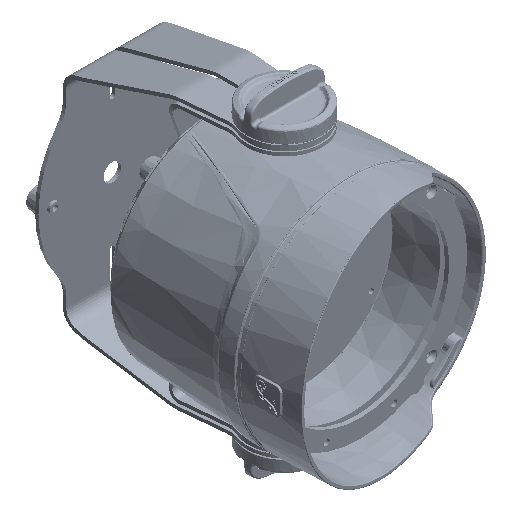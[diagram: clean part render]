
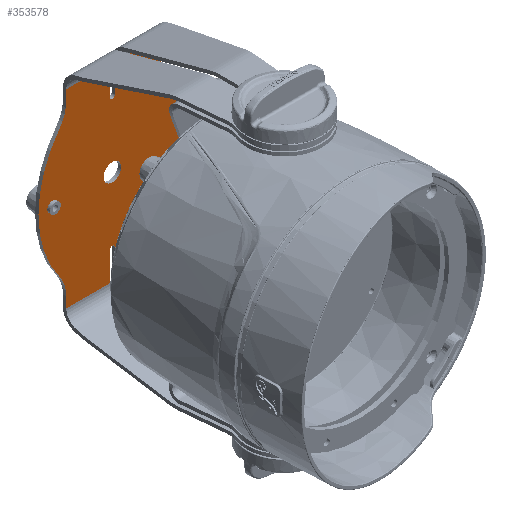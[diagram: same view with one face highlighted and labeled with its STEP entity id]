
A CAD part, isometric view. The second image highlights one B-rep face of the part: STEP entity #353578.
In plain terms, the highlighted planar face has unit normal (0, -1, 0).
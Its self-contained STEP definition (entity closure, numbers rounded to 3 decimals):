
#353086=CARTESIAN_POINT('',(-34.,72.,-70.));
#353087=VERTEX_POINT('',#353086);
#353096=CARTESIAN_POINT('',(-2.,72.,-70.));
#353097=VERTEX_POINT('',#353096);
#353105=CARTESIAN_POINT('',(-34.,72.,-70.));
#353106=DIRECTION('',(1.,0.,-0.));
#353107=VECTOR('',#353106,32.);
#353108=LINE('',#353105,#353107);
#353109=EDGE_CURVE('',#353087,#353097,#353108,.T.);
#353120=CARTESIAN_POINT('',(34.,72.,-70.));
#353121=VERTEX_POINT('',#353120);
#353129=CARTESIAN_POINT('',(2.,72.,-70.));
#353130=VERTEX_POINT('',#353129);
#353131=CARTESIAN_POINT('',(2.,72.,-70.));
#353132=DIRECTION('',(1.,0.,-0.));
#353133=VECTOR('',#353132,32.);
#353134=LINE('',#353131,#353133);
#353135=EDGE_CURVE('',#353130,#353121,#353134,.T.);
#353152=CARTESIAN_POINT('',(34.,72.,70.));
#353153=VERTEX_POINT('',#353152);
#353162=CARTESIAN_POINT('',(2.,72.,70.));
#353163=VERTEX_POINT('',#353162);
#353171=CARTESIAN_POINT('',(34.,72.,70.));
#353172=DIRECTION('',(-1.,-0.,0.));
#353173=VECTOR('',#353172,32.);
#353174=LINE('',#353171,#353173);
#353175=EDGE_CURVE('',#353153,#353163,#353174,.T.);
#353259=CARTESIAN_POINT('',(-34.,72.,70.));
#353260=VERTEX_POINT('',#353259);
#353268=CARTESIAN_POINT('',(-2.,72.,70.));
#353269=VERTEX_POINT('',#353268);
#353270=CARTESIAN_POINT('',(-2.,72.,70.));
#353271=DIRECTION('',(-1.,-0.,0.));
#353272=VECTOR('',#353271,32.);
#353273=LINE('',#353270,#353272);
#353274=EDGE_CURVE('',#353269,#353260,#353273,.T.);
#353386=CARTESIAN_POINT('',(-62.5,72.,70.));
#353387=DIRECTION('',(0.,-1.,0.));
#353388=DIRECTION('',(0.,0.,-1.));
#353389=AXIS2_PLACEMENT_3D('',#353386,#353387,#353388);
#353390=PLANE('',#353389);
#353391=CARTESIAN_POINT('',(-34.,72.,62.328));
#353392=VERTEX_POINT('',#353391);
#353393=CARTESIAN_POINT('',(-38.881,72.,47.488));
#353394=VERTEX_POINT('',#353393);
#353395=CARTESIAN_POINT('',(-59.,72.,62.328));
#353396=DIRECTION('',(0.,1.,0.));
#353397=DIRECTION('',(0.,-0.,1.));
#353398=AXIS2_PLACEMENT_3D('',#353395,#353396,#353397);
#353399=CIRCLE('',#353398,25.);
#353400=EDGE_CURVE('',#353392,#353394,#353399,.T.);
#353401=ORIENTED_EDGE('',*,*,#353400,.T.);
#353402=CARTESIAN_POINT('',(-38.881,72.,-47.488));
#353403=VERTEX_POINT('',#353402);
#353404=CARTESIAN_POINT('',(25.5,72.,0.));
#353405=DIRECTION('',(0.,1.,0.));
#353406=DIRECTION('',(0.,-0.,1.));
#353407=AXIS2_PLACEMENT_3D('',#353404,#353405,#353406);
#353408=CIRCLE('',#353407,80.);
#353409=EDGE_CURVE('',#353403,#353394,#353408,.T.);
#353410=ORIENTED_EDGE('',*,*,#353409,.F.);
#353411=CARTESIAN_POINT('',(-34.,72.,-62.328));
#353412=VERTEX_POINT('',#353411);
#353413=CARTESIAN_POINT('',(-59.,72.,-62.328));
#353414=DIRECTION('',(0.,1.,0.));
#353415=DIRECTION('',(0.,-0.,1.));
#353416=AXIS2_PLACEMENT_3D('',#353413,#353414,#353415);
#353417=CIRCLE('',#353416,25.);
#353418=EDGE_CURVE('',#353403,#353412,#353417,.T.);
#353419=ORIENTED_EDGE('',*,*,#353418,.T.);
#353420=CARTESIAN_POINT('',(-34.,72.,-62.328));
#353421=DIRECTION('',(0.,0.,-1.));
#353422=VECTOR('',#353421,7.672);
#353423=LINE('',#353420,#353422);
#353424=EDGE_CURVE('',#353412,#353087,#353423,.T.);
#353425=ORIENTED_EDGE('',*,*,#353424,.T.);
#353426=ORIENTED_EDGE('',*,*,#353109,.T.);
#353427=CARTESIAN_POINT('',(-2.,72.,-49.));
#353428=VERTEX_POINT('',#353427);
#353429=CARTESIAN_POINT('',(-2.,72.,-49.));
#353430=DIRECTION('',(0.,0.,-1.));
#353431=VECTOR('',#353430,21.);
#353432=LINE('',#353429,#353431);
#353433=EDGE_CURVE('',#353428,#353097,#353432,.T.);
#353434=ORIENTED_EDGE('',*,*,#353433,.F.);
#353435=CARTESIAN_POINT('',(-0.,72.,-47.));
#353436=VERTEX_POINT('',#353435);
#353437=CARTESIAN_POINT('',(0.,72.,-49.));
#353438=DIRECTION('',(0.,1.,0.));
#353439=DIRECTION('',(0.,-0.,1.));
#353440=AXIS2_PLACEMENT_3D('',#353437,#353438,#353439);
#353441=CIRCLE('',#353440,2.);
#353442=EDGE_CURVE('',#353428,#353436,#353441,.T.);
#353443=ORIENTED_EDGE('',*,*,#353442,.T.);
#353444=CARTESIAN_POINT('',(2.,72.,-49.));
#353445=VERTEX_POINT('',#353444);
#353446=CARTESIAN_POINT('',(0.,72.,-49.));
#353447=DIRECTION('',(0.,1.,0.));
#353448=DIRECTION('',(0.,-0.,1.));
#353449=AXIS2_PLACEMENT_3D('',#353446,#353447,#353448);
#353450=CIRCLE('',#353449,2.);
#353451=EDGE_CURVE('',#353436,#353445,#353450,.T.);
#353452=ORIENTED_EDGE('',*,*,#353451,.T.);
#353453=CARTESIAN_POINT('',(2.,72.,-49.));
#353454=DIRECTION('',(0.,0.,-1.));
#353455=VECTOR('',#353454,21.);
#353456=LINE('',#353453,#353455);
#353457=EDGE_CURVE('',#353445,#353130,#353456,.T.);
#353458=ORIENTED_EDGE('',*,*,#353457,.T.);
#353459=ORIENTED_EDGE('',*,*,#353135,.T.);
#353460=CARTESIAN_POINT('',(34.,72.,-62.328));
#353461=VERTEX_POINT('',#353460);
#353462=CARTESIAN_POINT('',(34.,72.,-62.328));
#353463=DIRECTION('',(0.,0.,-1.));
#353464=VECTOR('',#353463,7.672);
#353465=LINE('',#353462,#353464);
#353466=EDGE_CURVE('',#353461,#353121,#353465,.T.);
#353467=ORIENTED_EDGE('',*,*,#353466,.F.);
#353468=CARTESIAN_POINT('',(38.881,72.,-47.488));
#353469=VERTEX_POINT('',#353468);
#353470=CARTESIAN_POINT('',(59.,72.,-62.328));
#353471=DIRECTION('',(0.,1.,0.));
#353472=DIRECTION('',(0.,-0.,1.));
#353473=AXIS2_PLACEMENT_3D('',#353470,#353471,#353472);
#353474=CIRCLE('',#353473,25.);
#353475=EDGE_CURVE('',#353461,#353469,#353474,.T.);
#353476=ORIENTED_EDGE('',*,*,#353475,.T.);
#353477=CARTESIAN_POINT('',(38.881,72.,47.488));
#353478=VERTEX_POINT('',#353477);
#353479=CARTESIAN_POINT('',(-25.5,72.,0.));
#353480=DIRECTION('',(0.,1.,0.));
#353481=DIRECTION('',(0.,-0.,1.));
#353482=AXIS2_PLACEMENT_3D('',#353479,#353480,#353481);
#353483=CIRCLE('',#353482,80.);
#353484=EDGE_CURVE('',#353478,#353469,#353483,.T.);
#353485=ORIENTED_EDGE('',*,*,#353484,.F.);
#353486=CARTESIAN_POINT('',(34.,72.,62.328));
#353487=VERTEX_POINT('',#353486);
#353488=CARTESIAN_POINT('',(59.,72.,62.328));
#353489=DIRECTION('',(0.,1.,0.));
#353490=DIRECTION('',(0.,-0.,1.));
#353491=AXIS2_PLACEMENT_3D('',#353488,#353489,#353490);
#353492=CIRCLE('',#353491,25.);
#353493=EDGE_CURVE('',#353478,#353487,#353492,.T.);
#353494=ORIENTED_EDGE('',*,*,#353493,.T.);
#353495=CARTESIAN_POINT('',(34.,72.,62.328));
#353496=DIRECTION('',(0.,0.,1.));
#353497=VECTOR('',#353496,7.672);
#353498=LINE('',#353495,#353497);
#353499=EDGE_CURVE('',#353487,#353153,#353498,.T.);
#353500=ORIENTED_EDGE('',*,*,#353499,.T.);
#353501=ORIENTED_EDGE('',*,*,#353175,.T.);
#353502=CARTESIAN_POINT('',(2.,72.,49.));
#353503=VERTEX_POINT('',#353502);
#353504=CARTESIAN_POINT('',(2.,72.,49.));
#353505=DIRECTION('',(0.,0.,1.));
#353506=VECTOR('',#353505,21.);
#353507=LINE('',#353504,#353506);
#353508=EDGE_CURVE('',#353503,#353163,#353507,.T.);
#353509=ORIENTED_EDGE('',*,*,#353508,.F.);
#353510=CARTESIAN_POINT('',(-2.,72.,49.));
#353511=VERTEX_POINT('',#353510);
#353512=CARTESIAN_POINT('',(0.,72.,49.));
#353513=DIRECTION('',(0.,1.,0.));
#353514=DIRECTION('',(0.,-0.,1.));
#353515=AXIS2_PLACEMENT_3D('',#353512,#353513,#353514);
#353516=CIRCLE('',#353515,2.);
#353517=EDGE_CURVE('',#353503,#353511,#353516,.T.);
#353518=ORIENTED_EDGE('',*,*,#353517,.T.);
#353519=CARTESIAN_POINT('',(-2.,72.,49.));
#353520=DIRECTION('',(0.,0.,1.));
#353521=VECTOR('',#353520,21.);
#353522=LINE('',#353519,#353521);
#353523=EDGE_CURVE('',#353511,#353269,#353522,.T.);
#353524=ORIENTED_EDGE('',*,*,#353523,.T.);
#353525=ORIENTED_EDGE('',*,*,#353274,.T.);
#353526=CARTESIAN_POINT('',(-34.,72.,62.328));
#353527=DIRECTION('',(0.,0.,1.));
#353528=VECTOR('',#353527,7.672);
#353529=LINE('',#353526,#353528);
#353530=EDGE_CURVE('',#353392,#353260,#353529,.T.);
#353531=ORIENTED_EDGE('',*,*,#353530,.F.);
#353532=EDGE_LOOP('',(#353401,#353410,#353419,#353425,#353426,#353434,#353443,#353452,#353458,#353459,#353467,#353476,#353485,#353494,#353500,#353501,#353509,#353518,#353524,#353525,#353531));
#353533=FACE_BOUND('',#353532,.T.);
#353534=CARTESIAN_POINT('',(-0.,72.,6.5));
#353535=VERTEX_POINT('',#353534);
#353536=CARTESIAN_POINT('',(0.,72.,0.));
#353537=DIRECTION('',(0.,1.,0.));
#353538=DIRECTION('',(0.,-0.,1.));
#353539=AXIS2_PLACEMENT_3D('',#353536,#353537,#353538);
#353540=CIRCLE('',#353539,6.5);
#353541=EDGE_CURVE('',#353535,#353535,#353540,.T.);
#353542=ORIENTED_EDGE('',*,*,#353541,.T.);
#353543=EDGE_LOOP('',(#353542));
#353544=FACE_BOUND('',#353543,.T.);
#353545=CARTESIAN_POINT('',(-44.,72.,2.));
#353546=VERTEX_POINT('',#353545);
#353547=CARTESIAN_POINT('',(-44.,72.,0.));
#353548=DIRECTION('',(0.,1.,0.));
#353549=DIRECTION('',(0.,-0.,1.));
#353550=AXIS2_PLACEMENT_3D('',#353547,#353548,#353549);
#353551=CIRCLE('',#353550,2.);
#353552=EDGE_CURVE('',#353546,#353546,#353551,.T.);
#353553=ORIENTED_EDGE('',*,*,#353552,.T.);
#353554=EDGE_LOOP('',(#353553));
#353555=FACE_BOUND('',#353554,.T.);
#353556=CARTESIAN_POINT('',(30.,72.,44.5));
#353557=VERTEX_POINT('',#353556);
#353558=CARTESIAN_POINT('',(30.,72.,42.5));
#353559=DIRECTION('',(0.,1.,0.));
#353560=DIRECTION('',(0.,-0.,1.));
#353561=AXIS2_PLACEMENT_3D('',#353558,#353559,#353560);
#353562=CIRCLE('',#353561,2.);
#353563=EDGE_CURVE('',#353557,#353557,#353562,.T.);
#353564=ORIENTED_EDGE('',*,*,#353563,.T.);
#353565=EDGE_LOOP('',(#353564));
#353566=FACE_BOUND('',#353565,.T.);
#353567=CARTESIAN_POINT('',(30.,72.,-40.5));
#353568=VERTEX_POINT('',#353567);
#353569=CARTESIAN_POINT('',(30.,72.,-42.5));
#353570=DIRECTION('',(0.,1.,0.));
#353571=DIRECTION('',(0.,-0.,1.));
#353572=AXIS2_PLACEMENT_3D('',#353569,#353570,#353571);
#353573=CIRCLE('',#353572,2.);
#353574=EDGE_CURVE('',#353568,#353568,#353573,.T.);
#353575=ORIENTED_EDGE('',*,*,#353574,.T.);
#353576=EDGE_LOOP('',(#353575));
#353577=FACE_BOUND('',#353576,.T.);
#353578=ADVANCED_FACE('',(#353533,#353544,#353555,#353566,#353577),#353390,.T.);
